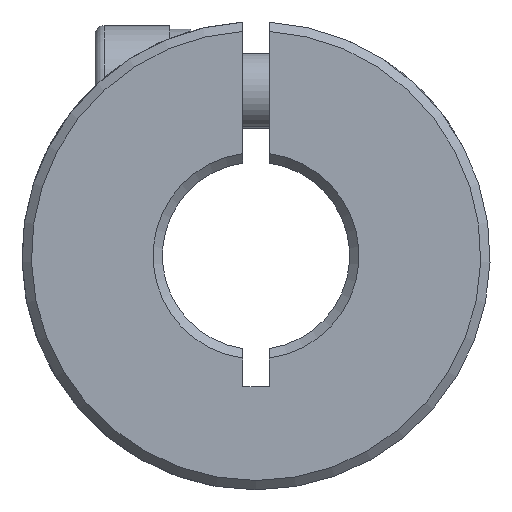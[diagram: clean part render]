
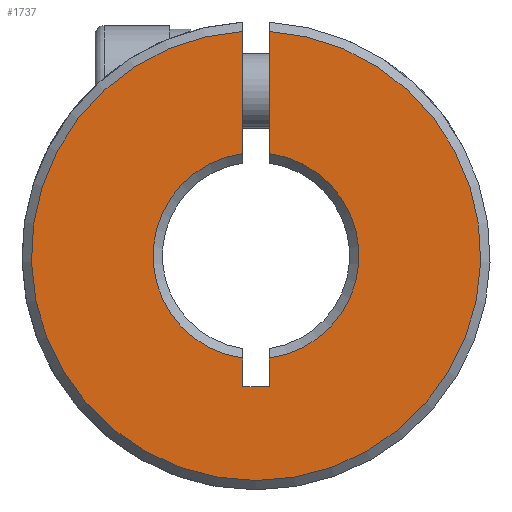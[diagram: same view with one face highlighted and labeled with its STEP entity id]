
A CAD part, front view. The second image highlights one B-rep face of the part: STEP entity #1737.
In plain terms, the highlighted planar face has unit normal (0, -1, 0).
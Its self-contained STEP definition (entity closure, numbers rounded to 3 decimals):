
#19 = LINE ( 'NONE', #2716, #419 ) ;
#33 = DIRECTION ( 'NONE',  ( 0., 0., 1. ) ) ;
#39 = AXIS2_PLACEMENT_3D ( 'NONE', #2016, #468, #2516 ) ;
#85 = DIRECTION ( 'NONE',  ( 0., -1., 0. ) ) ;
#91 = LINE ( 'NONE', #2821, #1971 ) ;
#121 = VERTEX_POINT ( 'NONE', #137 ) ;
#137 = CARTESIAN_POINT ( 'NONE',  ( 0.7, 0.25, -7. ) ) ;
#182 = VECTOR ( 'NONE', #3114, 1000. ) ;
#204 = ORIENTED_EDGE ( 'NONE', *, *, #1532, .F. ) ;
#227 = DIRECTION ( 'NONE',  ( 0., 0., 1. ) ) ;
#419 = VECTOR ( 'NONE', #2925, 1000. ) ;
#468 = DIRECTION ( 'NONE',  ( 0., 1., 0. ) ) ;
#625 = CARTESIAN_POINT ( 'NONE',  ( 0.7, 0.25, -5.455 ) ) ;
#742 = LINE ( 'NONE', #1073, #182 ) ;
#750 = CARTESIAN_POINT ( 'NONE',  ( -0.7, 0.25, -5.455 ) ) ;
#767 = DIRECTION ( 'NONE',  ( 0., 1., 0. ) ) ;
#770 = EDGE_CURVE ( 'NONE', #875, #978, #3168, .T. ) ;
#779 = CARTESIAN_POINT ( 'NONE',  ( 0., 0.25, 0. ) ) ;
#786 = DIRECTION ( 'NONE',  ( 0., 0., 1. ) ) ;
#820 = VERTEX_POINT ( 'NONE', #2261 ) ;
#838 = VECTOR ( 'NONE', #2486, 1000. ) ;
#875 = VERTEX_POINT ( 'NONE', #888 ) ;
#888 = CARTESIAN_POINT ( 'NONE',  ( 0.7, 0.25, 5.455 ) ) ;
#978 = VERTEX_POINT ( 'NONE', #625 ) ;
#1038 = EDGE_LOOP ( 'NONE', ( #1545, #1580, #1321, #3012, #2087, #1441, #204, #3127 ) ) ;
#1073 = CARTESIAN_POINT ( 'NONE',  ( -0.7, 0.25, -7. ) ) ;
#1108 = EDGE_CURVE ( 'NONE', #3215, #121, #19, .T. ) ;
#1193 = CARTESIAN_POINT ( 'NONE',  ( -0.7, 0.25, -7. ) ) ;
#1247 = EDGE_CURVE ( 'NONE', #3092, #3215, #2873, .T. ) ;
#1302 = AXIS2_PLACEMENT_3D ( 'NONE', #779, #2336, #786 ) ;
#1321 = ORIENTED_EDGE ( 'NONE', *, *, #3107, .F. ) ;
#1359 = CARTESIAN_POINT ( 'NONE',  ( 0., 0.25, 0. ) ) ;
#1395 = VERTEX_POINT ( 'NONE', #3090 ) ;
#1441 = ORIENTED_EDGE ( 'NONE', *, *, #2451, .T. ) ;
#1532 = EDGE_CURVE ( 'NONE', #820, #2405, #742, .T. ) ;
#1545 = ORIENTED_EDGE ( 'NONE', *, *, #3336, .F. ) ;
#1580 = ORIENTED_EDGE ( 'NONE', *, *, #770, .T. ) ;
#1590 = EDGE_CURVE ( 'NONE', #820, #1395, #2018, .T. ) ;
#1737 = ADVANCED_FACE ( 'NONE', ( #1784 ), #2581, .F. ) ;
#1784 = FACE_OUTER_BOUND ( 'NONE', #1038, .T. ) ;
#1824 = LINE ( 'NONE', #2127, #3246 ) ;
#1871 = DIRECTION ( 'NONE',  ( 0., 0., 1. ) ) ;
#1971 = VECTOR ( 'NONE', #227, 1000. ) ;
#2016 = CARTESIAN_POINT ( 'NONE',  ( 0., 0.25, 0. ) ) ;
#2018 = CIRCLE ( 'NONE', #2033, 12. ) ;
#2033 = AXIS2_PLACEMENT_3D ( 'NONE', #1359, #85, #1871 ) ;
#2087 = ORIENTED_EDGE ( 'NONE', *, *, #1247, .F. ) ;
#2127 = CARTESIAN_POINT ( 'NONE',  ( 0.7, 0.25, -7. ) ) ;
#2134 = DIRECTION ( 'NONE',  ( 0., 0., 1. ) ) ;
#2261 = CARTESIAN_POINT ( 'NONE',  ( -0.7, 0.25, 11.98 ) ) ;
#2296 = CARTESIAN_POINT ( 'NONE',  ( -0.7, 0.25, -7. ) ) ;
#2336 = DIRECTION ( 'NONE',  ( 0., 1., 0. ) ) ;
#2349 = CARTESIAN_POINT ( 'NONE',  ( 12.5, 0.25, -50. ) ) ;
#2405 = VERTEX_POINT ( 'NONE', #3102 ) ;
#2451 = EDGE_CURVE ( 'NONE', #3092, #2405, #3326, .T. ) ;
#2486 = DIRECTION ( 'NONE',  ( 0., 0., -1. ) ) ;
#2516 = DIRECTION ( 'NONE',  ( 0., 0., 1. ) ) ;
#2581 = PLANE ( 'NONE',  #3343 ) ;
#2716 = CARTESIAN_POINT ( 'NONE',  ( 0.7, 0.25, -7. ) ) ;
#2821 = CARTESIAN_POINT ( 'NONE',  ( 0.7, 0.25, -7. ) ) ;
#2873 = LINE ( 'NONE', #1193, #838 ) ;
#2925 = DIRECTION ( 'NONE',  ( 1., 0., 0. ) ) ;
#3012 = ORIENTED_EDGE ( 'NONE', *, *, #1108, .F. ) ;
#3090 = CARTESIAN_POINT ( 'NONE',  ( 0.7, 0.25, 11.98 ) ) ;
#3092 = VERTEX_POINT ( 'NONE', #750 ) ;
#3102 = CARTESIAN_POINT ( 'NONE',  ( -0.7, 0.25, 5.455 ) ) ;
#3107 = EDGE_CURVE ( 'NONE', #121, #978, #91, .T. ) ;
#3114 = DIRECTION ( 'NONE',  ( 0., 0., -1. ) ) ;
#3127 = ORIENTED_EDGE ( 'NONE', *, *, #1590, .T. ) ;
#3168 = CIRCLE ( 'NONE', #39, 5.5 ) ;
#3215 = VERTEX_POINT ( 'NONE', #2296 ) ;
#3246 = VECTOR ( 'NONE', #2134, 1000. ) ;
#3326 = CIRCLE ( 'NONE', #1302, 5.5 ) ;
#3336 = EDGE_CURVE ( 'NONE', #875, #1395, #1824, .T. ) ;
#3343 = AXIS2_PLACEMENT_3D ( 'NONE', #2349, #767, #33 ) ;
